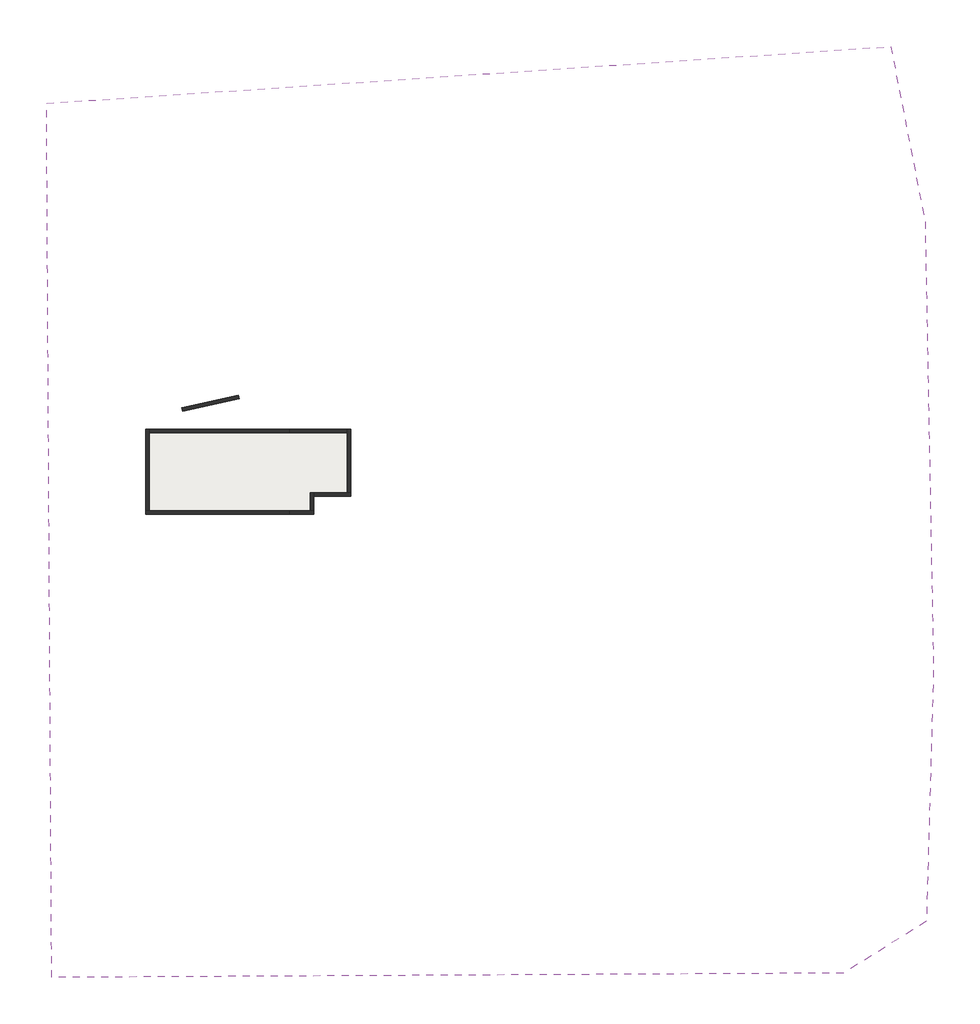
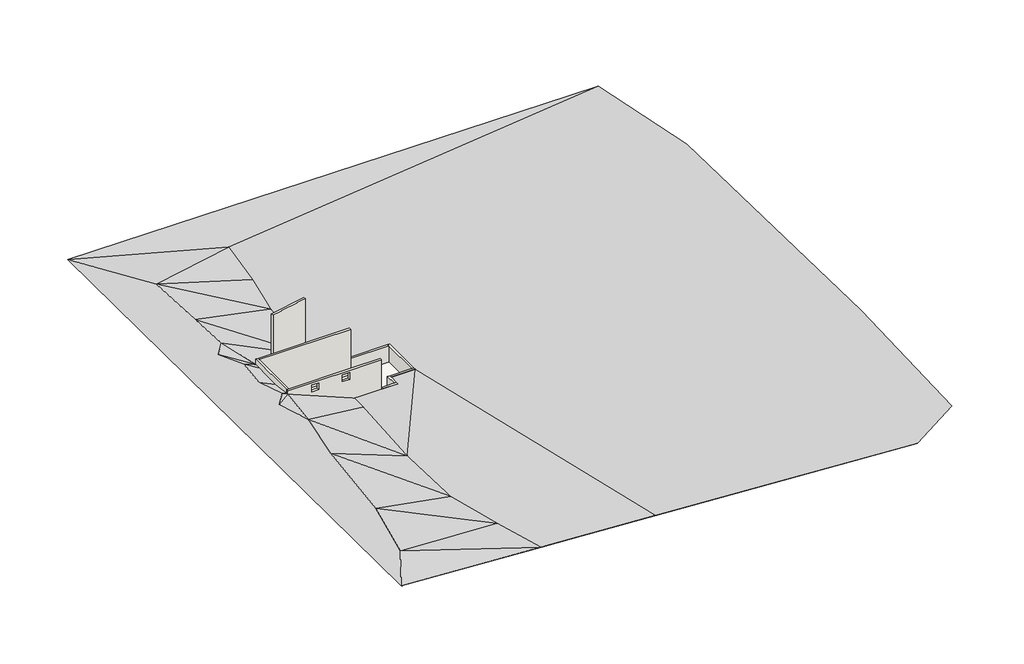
# One storey, incomplete: 9 walls, 1 proxy, 1 slab.
"""IFC4 building model written with IfcOpenShell, lengths in millimetres."""

from ifc_helpers import new_model, si_unit, frame, origin, place, context, project, spatial, polyline, outline, extrude, faceted_brep, triangles, element, save

model = new_model("IFC4")

# Units and contexts
model_context = context("Model", 3, world=origin())
ifc_project = project(units=[si_unit("LENGTHUNIT", "METRE", prefix="MILLI")], contexts=[model_context])

# Site, building, storey
site = spatial("IfcSite", under=ifc_project)
building = spatial("IfcBuilding", under=site)
storey = spatial("IfcBuildingStorey", under=building, Name="00 基礎", Elevation=-6200.0)

# Proxy
placement = place(None, origin())
element("IfcBuildingElementProxy", 1, Name="Building Element Proxy", at=placement, inside=storey, context=model_context, shape_type="Tessellation", body=[
    triangles([(-14965.9388214, 28798.1026611, -150.0000011), (-14529.5201111, -45342.6834961, -150.0000011), (52630.4572632, -44975.0687256, -4300.0000328), (59655.572644, -40578.2719849, -4300.0000328), (60256.7964111, -19268.1657532, -4300.0000328), (59546.2583862, 18748.4532898, -4300.0000328), (56633.7477905, 33612.3250854, -4300.0000328), (10852.9445251, 1150.8362223, -4046.0030365), (10852.9445251, -3616.8292328, -4045.7914215), (10852.9445251, -4549.1638939, -4045.7914215), (7702.9443558, -4549.1638939, -4029.3464951), (7702.9443558, -6049.1639053, -4029.3464951), (2081.679332, -6049.1639053, -4000.0000305), (-6547.0556076, -6049.1639053, -442.9919646), (-6547.0556076, -5886.2348969, -442.9919646), (-6547.0556076, -3182.6324799, -834.3541592), (-6547.0556076, 344.536964, -732.2365551), (-6547.0556076, 1150.8362223, -734.849477), (2032.1528492, 1150.8362223, -4000.0000305), (-8473.7333542, 11435.2845612, -150.0000011), (-9614.8782349, 4243.3642456, -150.0000011), (-9997.4758118, 854.6418743, -150.0000011), (-12457.0326599, 1873.9914276, -150.0000011), (-10106.7900696, -4392.4121246, -150.0000011), (-9942.8198456, -7015.9391968, -150.0000011), (-12754.9121521, -7576.1712799, -150.0000011), (-9399.5750977, -30761.8432617, -150.0000011), (-12604.6062103, -15971.4576782, -150.0000011), (-11184.3266235, -39378.8754272, -150.0000011), (-7260.2905609, -11812.0824921, -150.0000011), (-8391.993576, -18891.7247772, -150.0000011), (-7806.8583618, -11510.2125458, -150.0000011), (-8576.3991806, -7671.8206741, -150.0000011), (-8576.3991806, -6032.1166901, -150.0000011), (-7257.8075729, -5986.7706207, -150.0000011), (-8412.4283752, -2862.0212357, -150.0000011), (-8084.4879272, 1237.2395966, -150.0000011), (-8200.8500107, 6009.2727356, -150.0000011), (-8771.2669373, 19720.6125549, -150.0000011), (4677.1284668, 26671.248761, -4000.0000305), (3806.9382683, 19765.5167908, -4000.0000305), (2682.9042618, 13752.7779877, -4000.0000305), (2009.9116196, 3762.8964798, -4000.0000305), (2081.679332, -8054.418251, -4000.0000305), (1563.8099247, -18825.6404388, -4000.0000305), (1826.4125004, -28189.9490845, -4000.0000305), (3734.1773026, -35329.2342407, -4000.0000305), (5677.5982132, -41880.4669189, -4000.0000305), (59546.2583862, 2205.9128826, -4300.0000328), (20090.3388245, -42515.4607178, -4300.0000328)], [[2, 29, 27], [29, 2, 48], [27, 29, 47], [2, 27, 28], [25, 26, 32], [28, 26, 2], [28, 32, 26], [24, 26, 25], [28, 27, 31], [2, 26, 1], [30, 32, 28], [45, 30, 31], [32, 30, 33], [32, 33, 25], [35, 34, 33], [33, 34, 25], [14, 33, 30], [35, 33, 14], [14, 30, 44], [28, 31, 30], [46, 31, 27], [24, 25, 34], [23, 24, 22], [24, 23, 26], [21, 22, 37], [23, 22, 21], [1, 20, 39], [23, 20, 1], [20, 23, 21], [1, 39, 40], [22, 24, 36], [23, 1, 26], [35, 15, 16], [15, 35, 14], [35, 16, 36], [21, 38, 20], [22, 36, 37], [37, 18, 21], [18, 38, 21], [37, 36, 17], [43, 20, 38], [20, 42, 39], [36, 24, 34], [34, 35, 36], [17, 36, 16], [50, 45, 46], [45, 31, 46], [48, 47, 29], [47, 50, 46], [44, 13, 14], [12, 44, 45], [12, 13, 44], [48, 50, 47], [44, 30, 45], [5, 50, 3], [50, 48, 2], [5, 3, 4], [11, 12, 10], [45, 50, 10], [5, 10, 50], [45, 10, 12], [2, 3, 50], [18, 19, 43], [17, 18, 37], [42, 8, 41], [43, 8, 42], [41, 39, 42], [42, 20, 43], [43, 19, 8], [41, 40, 39], [9, 49, 8], [49, 9, 10], [6, 41, 8], [40, 7, 1], [7, 40, 6], [40, 41, 6], [6, 49, 5], [8, 49, 6], [10, 5, 49], [18, 43, 38], [46, 27, 47]], closed=False),
])

# Slab
element("IfcSlab", 2, ObjectType="建築地坪 1", at=placement, inside=storey, context=model_context, shape_type="SweptSolid", body=[
    extrude(outline(polyline([(10852.9445117, 1150.8362183), (10852.9445117, -4549.1637817), (7702.9445117, -4549.1637817), (7702.9445117, -6049.1637817), (-6547.0554883, -6049.1637817), (-6547.0554883, 1150.8362183), (10852.9445117, 1150.8362183)])), frame((0.0, 0.0, -6504.8), z_axis=(0.0, 0.0, 1.0), x_axis=(1.0, 0.0, 0.0)), (0.0, 0.0, 1.0), 304.8),
])

# Walls
element("IfcWall", 3, ObjectType="擋土牆 - 300mm 混凝土", at=placement, inside=storey, context=model_context, shape_type="Brep", body=[
    faceted_brep([(5602.9445117, -5749.1637817, 0.0), (5602.9445117, -5749.1637817, -4000.0), (5602.9445117, -5749.1637817, -6200.0), (-6247.0554883, -5749.1637817, -6200.0), (-6547.0554883, -5749.1637817, -6200.0), (-6547.0554883, -5749.1637817, 0.0), (-6247.0554883, -5749.1637817, 0.0), (1652.9445117, -5749.1637817, 0.0), (1852.9445117, -5749.1637817, 0.0), (-3472.0554883, -5749.1637817, -285.0), (-3472.0554883, -5749.1637817, -1200.0), (-2557.0554883, -5749.1637817, -1200.0), (-2557.0554883, -5749.1637817, -285.0), (537.9445117, -5749.1637817, -285.0), (537.9445117, -5749.1637817, -1200.0), (1452.9445117, -5749.1637817, -1200.0), (1452.9445117, -5749.1637817, -285.0), (5602.9445117, -6049.1637817, -6200.0), (5602.9445117, -6049.1637817, 0.0), (-6547.0554883, -6049.1637817, 0.0), (-6547.0554883, -6049.1637817, -6200.0), (-3472.0554883, -6049.1637817, -285.0), (-2557.0554883, -6049.1637817, -285.0), (-2557.0554883, -6049.1637817, -1200.0), (-3472.0554883, -6049.1637817, -1200.0), (537.9445117, -6049.1637817, -285.0), (1452.9445117, -6049.1637817, -285.0), (1452.9445117, -6049.1637817, -1200.0), (537.9445117, -6049.1637817, -1200.0), (5602.9445117, -5949.1637817, 0.0)], [[[0, 1, 2, 3, 4, 5, 6, 7, 8], [9, 10, 11, 12], [13, 14, 15, 16]], [[17, 18, 19, 20], [21, 22, 23, 24], [25, 26, 27, 28]], [[4, 3, 2, 17, 20]], [[0, 8, 7, 6, 5, 19, 18, 29]], [[5, 4, 20, 19]], [[0, 29, 18, 17, 2, 1]], [[10, 9, 21, 24]], [[11, 10, 24, 23]], [[12, 11, 23, 22]], [[9, 12, 22, 21]], [[14, 13, 25, 28]], [[15, 14, 28, 27]], [[16, 15, 27, 26]], [[13, 16, 26, 25]]]),
])
element("IfcWall", 4, ObjectType="擋土牆 - 300mm 混凝土", at=placement, inside=storey, context=model_context, shape_type="Brep", body=[
    faceted_brep([(-6247.0554883, -5749.1637817, -6200.0), (-6247.0554883, 850.8362183, -6200.0), (-6247.0554883, 1150.8362183, -6200.0), (-6247.0554883, 1150.8362183, 0.0), (-6247.0554883, 850.8362183, 0.0), (-6247.0554883, -2149.1637817, 0.0), (-6247.0554883, -2349.1637817, 0.0), (-6247.0554883, -5749.1637817, 0.0), (-6547.0554883, -5749.1637817, -6200.0), (-6547.0554883, -5749.1637817, 0.0), (-6547.0554883, 1150.8362183, 0.0), (-6547.0554883, 1150.8362183, -6200.0)], [[[0, 1, 2, 3, 4, 5, 6, 7]], [[8, 9, 10, 11]], [[2, 1, 0, 8, 11]], [[7, 6, 5, 4, 3, 10, 9]], [[3, 2, 11, 10]], [[0, 7, 9, 8]]]),
])
element("IfcWall", 5, ObjectType="擋土牆 - 300mm 混凝土", at=placement, inside=storey, context=model_context, shape_type="Brep", body=[
    faceted_brep([(-6247.0554883, 850.8362183, -6200.0), (5602.9445117, 850.8362183, -6200.0), (5602.9445117, 850.8362183, 0.0), (1852.9445117, 850.8362183, 0.0), (1652.9445117, 850.8362183, 0.0), (-1347.0554883, 850.8362183, 0.0), (-1547.0554883, 850.8362183, 0.0), (-3847.0554883, 850.8362183, 0.0), (-4047.0554883, 850.8362183, 0.0), (-6247.0554883, 850.8362183, 0.0), (-6247.0554883, 1150.8362183, -6200.0), (-6247.0554883, 1150.8362183, 0.0), (5602.9445117, 1150.8362183, 0.0), (5602.9445117, 1150.8362183, -6200.0), (5602.9445117, 1050.8362183, 0.0)], [[[0, 1, 2, 3, 4, 5, 6, 7, 8, 9]], [[10, 11, 12, 13]], [[1, 0, 10, 13]], [[2, 1, 13, 12, 14]], [[9, 8, 7, 6, 5, 4, 3, 2, 14, 12, 11]], [[0, 9, 11, 10]]]),
])
element("IfcWall", 6, ObjectType="基礎 - 300mm 混凝土", at=placement, inside=storey, context=model_context, shape_type="Brep", body=[
    faceted_brep([(5602.9445117, -6049.1637817, -6200.0), (7702.9445117, -6049.1637817, -6200.0), (7702.9445117, -6049.1637817, -4000.0), (5602.9445117, -6049.1637817, -4000.0), (5602.9445117, -5749.1637817, -6200.0), (5602.9445117, -5749.1637817, -4000.0), (7402.9445117, -5749.1637817, -4000.0), (7702.9445117, -5749.1637817, -4000.0), (7702.9445117, -5749.1637817, -6200.0), (7402.9445117, -5749.1637817, -6200.0)], [[[0, 1, 2, 3]], [[4, 5, 6, 7, 8, 9]], [[1, 0, 4, 9, 8]], [[3, 2, 7, 6, 5]], [[0, 3, 5, 4]], [[2, 1, 8, 7]]]),
])
element("IfcWall", 7, ObjectType="基礎 - 300mm 混凝土", at=placement, inside=storey, context=model_context, shape_type="Brep", body=[
    faceted_brep([(7702.9445117, -5749.1637817, -6200.0), (7702.9445117, -4549.1637817, -6200.0), (7702.9445117, -4249.1637817, -6200.0), (7702.9445117, -4249.1637817, -4000.0), (7702.9445117, -4549.1637817, -4000.0), (7702.9445117, -5749.1637817, -4000.0), (7402.9445117, -5749.1637817, -6200.0), (7402.9445117, -5749.1637817, -4000.0), (7402.9445117, -4249.1637817, -4000.0), (7402.9445117, -4249.1637817, -6200.0)], [[[0, 1, 2, 3, 4, 5]], [[6, 7, 8, 9]], [[2, 1, 0, 6, 9]], [[5, 4, 3, 8, 7]], [[3, 2, 9, 8]], [[0, 5, 7, 6]]]),
])
element("IfcWall", 8, ObjectType="基礎 - 300mm 混凝土", at=placement, inside=storey, context=model_context, shape_type="Brep", body=[
    faceted_brep([(7702.9445117, -4549.1637817, -6200.0), (10852.9445117, -4549.1637817, -6200.0), (10852.9445117, -4549.1637817, -4000.0), (7702.9445117, -4549.1637817, -4000.0), (7702.9445117, -4249.1637817, -6200.0), (7702.9445117, -4249.1637817, -4000.0), (10552.9445117, -4249.1637817, -4000.0), (10852.9445117, -4249.1637817, -4000.0), (10852.9445117, -4249.1637817, -6200.0), (10552.9445117, -4249.1637817, -6200.0)], [[[0, 1, 2, 3]], [[4, 5, 6, 7, 8, 9]], [[1, 0, 4, 9, 8]], [[3, 2, 7, 6, 5]], [[2, 1, 8, 7]], [[0, 3, 5, 4]]]),
])
element("IfcWall", 9, ObjectType="基礎 - 300mm 混凝土", at=placement, inside=storey, context=model_context, shape_type="Brep", body=[
    faceted_brep([(10852.9445117, -4249.1637817, -6200.0), (10852.9445117, 1150.8362183, -6200.0), (10852.9445117, 1150.8362183, -4000.0), (10852.9445117, -4249.1637817, -4000.0), (10552.9445117, -4249.1637817, -6200.0), (10552.9445117, -4249.1637817, -4000.0), (10552.9445117, 850.8362183, -4000.0), (10552.9445117, 1150.8362183, -4000.0), (10552.9445117, 1150.8362183, -6200.0), (10552.9445117, 850.8362183, -6200.0)], [[[0, 1, 2, 3]], [[4, 5, 6, 7, 8, 9]], [[1, 0, 4, 9, 8]], [[3, 2, 7, 6, 5]], [[2, 1, 8, 7]], [[0, 3, 5, 4]]]),
])
element("IfcWall", 10, ObjectType="基礎 - 300mm 混凝土", at=placement, inside=storey, context=model_context, shape_type="SweptSolid", body=[
    extrude(outline(polyline([(5602.9445117, 1150.8362183), (10552.9445117, 1150.8362183), (10552.9445117, 850.8362183), (5602.9445117, 850.8362183), (5602.9445117, 1150.8362183)])), frame((0.0, 0.0, -6200.0), z_axis=(0.0, 0.0, 1.0), x_axis=(1.0, 0.0, 0.0)), (0.0, 0.0, 1.0), 2200.0),
])
element("IfcWall", 11, ObjectType="擋土牆 - 300mm 混凝土", at=placement, inside=storey, context=model_context, shape_type="SweptSolid", body=[
    extrude(outline(polyline([(1374.3744414, 3726.8569175), (-3416.8573876, 2700.1643827), (-3479.7161142, 2993.5051069), (1311.5157147, 4020.1976417), (1374.3744414, 3726.8569175)])), frame((0.0, 0.0, -6200.0), z_axis=(0.0, 0.0, 1.0), x_axis=(1.0, 0.0, 0.0)), (0.0, 0.0, 1.0), 10200.0),
])

save(model, "model.ifc")
